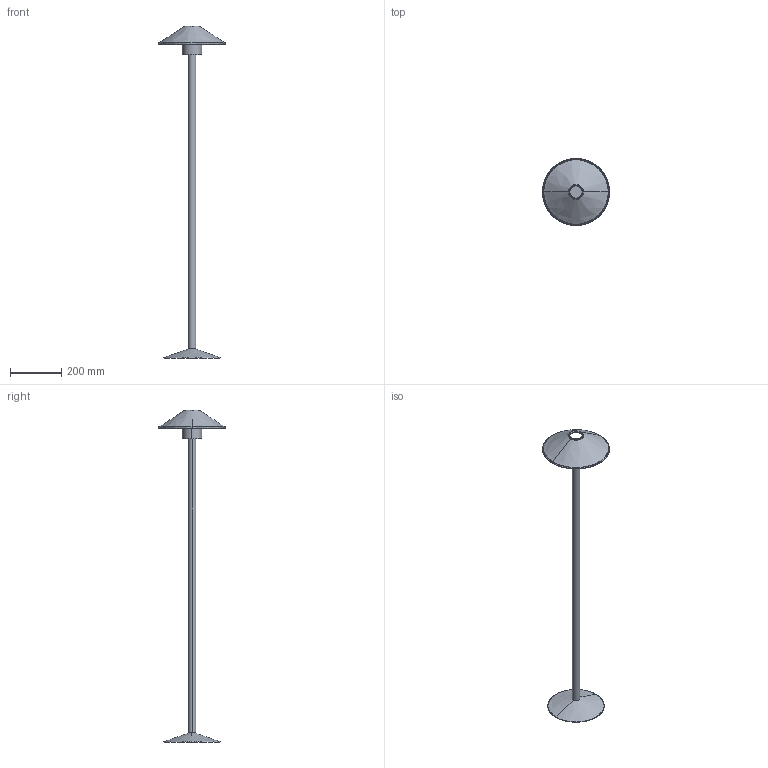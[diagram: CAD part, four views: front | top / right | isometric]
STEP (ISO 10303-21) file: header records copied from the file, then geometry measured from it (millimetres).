
FILE_DESCRIPTION(/* description */ (''),/* implementation_level */ '2;1');
FILE_NAME(/* name */ 'ILKW_FLAMINGO26_Floor_3D',/* time_stamp */ '2026-08-28T17:17:01+09:00',/* author */ (''),/* organization */ (''),/* preprocessor_version */ 'ST-DEVELOPER v19.2',/* originating_system */ 'Rhino 8.21',/* authorisation */ '');
FILE_SCHEMA (('CONFIG_CONTROL_DESIGN'));
Length unit declared in the file: millimetre
Products named in the file (1): Document
Bounding box: 261.99 x 261.95 x 1300.98 mm (x, y, z)
Volume: 1704329.2 mm3; surface area: 300378.9 mm2
Topology: 1 solids, 4 shells, 18 faces, 40 edges, 26 vertices
Faces by surface type: bspline 10, cylinder 4, plane 4
Entity records: 1378 total; most frequent: CARTESIAN_POINT 927, ORIENTED_EDGE 68, DIRECTION 66, EDGE_CURVE 40, AXIS2_PLACEMENT_3D 37, TRIMMED_CURVE 26, CIRCLE 26, VERTEX_POINT 26
